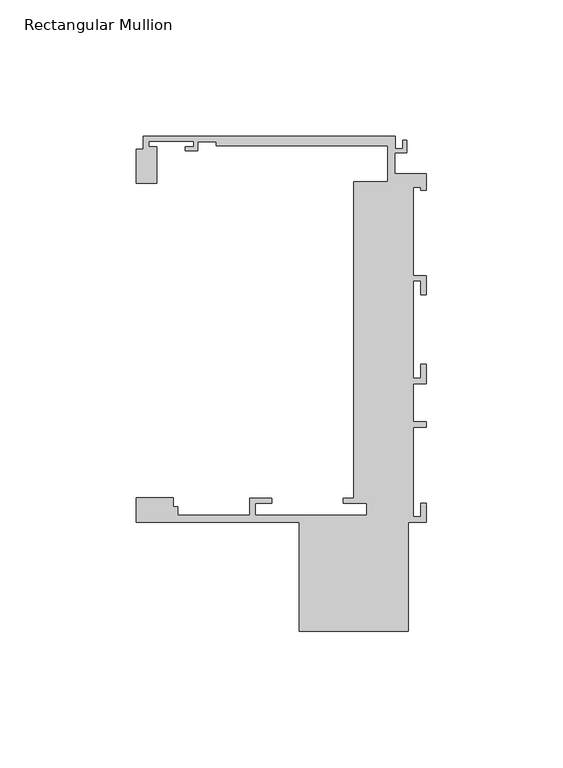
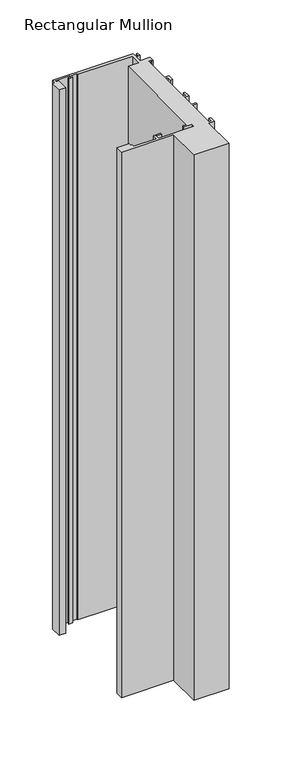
"""IFC4 building model written with IfcOpenShell, lengths in millimetres: member geometry, Rectangular Mullion : Danpal_K12_Middle-Mullion_B2."""

from ifc_helpers import new_model, si_unit, frame, origin, place, context, project, spatial, polyline, outline, extrude, source, transform, mapped, element, save


def rectangular_mullion_5fa05575(model_context):
    return source(origin(), model_context, "Body", "SweptSolid", [
        extrude(outline(polyline([(24.173135, -117.8676658), (24.173135, -1.9446289), (36.6885087, -1.9446289), (36.6885087, 11.3051512), (-26.3590216, 11.3051512), (-26.3590216, 12.8051513), (-33.1059015, 12.8051513), (-33.1059015, 9.5051512), (-37.6059015, 9.5051512), (-37.6059015, 11.0051513), (-34.6059015, 11.0051513), (-34.6059015, 13.0051512), (-51.1059014, 13.0051512), (-51.1059014, 11.0051513), (-48.1059014, 11.0051513), (-48.1059014, -2.316674), (-55.6176464, -2.316674), (-55.6176464, 10.065304), (-53.1059014, 10.065304), (-53.1059014, 14.8051514), (39.3921425, 14.8051514), (39.3921425, 10.3006425), (42.1422367, 10.3006425), (42.1422367, 13.3051514), (43.6422367, 13.3051514), (43.6422367, 8.8006425), (39.1885087, 8.8006425), (39.1885087, 1.0551514), (50.7940962, 1.0551514), (50.7940962, -4.9448486), (48.7940962, -4.9448486), (48.7940962, -3.9448486), (45.9940962, -3.9448486), (45.9940962, -36.2443486), (50.7940962, -36.2443486), (50.7940962, -43.2443486), (48.7940962, -43.2443486), (48.7940962, -38.2443486), (45.9940962, -38.2443486), (45.9940962, -73.8676657), (48.7940962, -73.8676657), (48.7940962, -68.8676657), (50.7940962, -68.8676657), (50.7940962, -75.867683), (45.9940962, -75.867683), (45.9940962, -89.8676485), (50.7940962, -89.8676485), (50.7940962, -91.8676485), (45.9940962, -91.8676485), (45.9940962, -124.7676657), (48.7940962, -124.7676657), (48.7940962, -119.7676657), (50.7940962, -119.7676657), (50.7940962, -126.7676657), (44.1940962, -126.7676657), (44.1940962, -166.7676657), (4.1940962, -166.7676657), (4.1940962, -126.7676657), (-55.6176464, -126.7676657), (-55.6176464, -117.6986749), (-42.0287205, -117.6986749), (-42.0287205, -121.0676175), (-40.4959313, -121.0676175), (-40.4959313, -124.2676658), (-13.9409313, -124.2676658), (-13.9409313, -117.8676658), (-5.9409313, -117.8676658), (-5.9409313, -119.8676658), (-11.9409313, -119.8676658), (-11.9409313, -124.2676658), (28.9590961, -124.2676658), (28.9590961, -119.8676658), (20.1940961, -119.8676658), (20.1940961, -117.8676658), (24.173135, -117.8676658)])), frame((0.0, 0.0, -660.6176464), z_axis=(0.0, 0.0, 1.0), x_axis=(1.0, 0.0, 0.0)), (0.0, 0.0, 1.0), 660.6176464),
    ])


if __name__ == "__main__":
    model = new_model("IFC4")
    model_context = context("Model", 3, world=origin())
    ifc_project = project(units=[si_unit("LENGTHUNIT", "METRE", prefix="MILLI")], contexts=[model_context])
    site = spatial("IfcSite", under=ifc_project)
    building = spatial("IfcBuilding", under=site)
    placement = place(None, origin())
    rectangular_mullion_shape = rectangular_mullion_5fa05575(model_context)
    element("IfcMember", 1, ObjectType="Rectangular Mullion : Danpal_K12_Middle-Mullion_B2", at=placement, inside=building, context=model_context, shape_type="MappedRepresentation", body=[
        mapped(rectangular_mullion_shape, transform((0.0, 0.0, 0.0), x_axis=(1.0, 0.0, 0.0), y_axis=(0.0, 1.0, 0.0), z_axis=(0.0, 0.0, 1.0))),
    ])
    save(model, "model.ifc")
